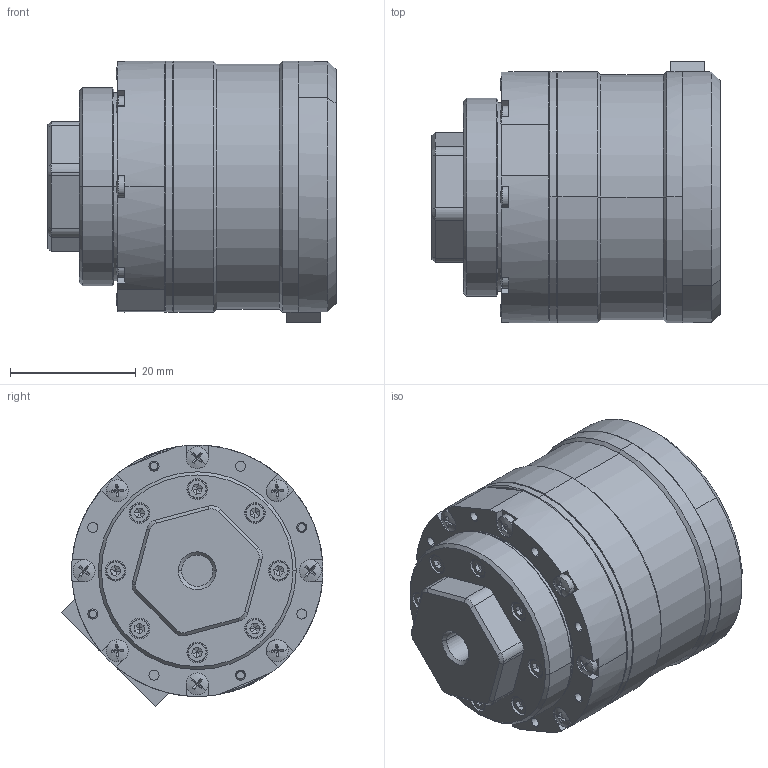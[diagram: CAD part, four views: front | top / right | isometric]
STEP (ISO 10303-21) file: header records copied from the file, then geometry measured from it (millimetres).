
FILE_DESCRIPTION (( 'STEP AP203' ), '1' );
FILE_NAME ('E20-H08-1B-100.STEP', '2021-10-09T02:42:21', ( 'lenovo' ), ( '' ), 'SwSTEP 2.0', 'SolidWorks 2016', '' );
FILE_SCHEMA (( 'CONFIG_CONTROL_DESIGN' ));
Length unit declared in the file: millimetre
Products named in the file (24): SHD-08-QDEL20_002; SHD-08-詩謫; SHD-08-交叉轴承外圈; SHD-11-QDNE30_005; 32.0x1.5O型圈_預設; SHD-08-交叉轴承内圈; GB／T70．1-2000内六角圆柱头螺钉M2．5×6; SHD-08-熬厒ん軞傖_蕼偞; SHD-08-蝠脫粣創黑芛; GB／T819．1-2000十字槽沉头螺钉M2．5×12; E20-H08_001; M1.6-蹟隊_蕼偞; QDEL20; E20-H08-1B_001; B-2.0-幗紩_蕼偞; GB／T70．1-2000内六角圆柱头螺钉M1．6×8; EL20萇繚啣; 2.0-幗紩_蕼偞; GB823-88十字槽小盘头螺钉M2×12; 14郋俔渀釱; SHD-08蝠脫粣創_蕼偞; E20-H08-1B-100; EL20萇繚啣郪璃; SHD-08-柔轮SLDPRT_預設
Assembly tree (91 placements, depth 4):
  E20-H08-1B-100
    SHD-08-熬厒ん軞傖_蕼偞
      SHD-08蝠脫粣創_蕼偞
        SHD-08-交叉轴承外圈
        SHD-08-交叉轴承内圈
        SHD-08-蝠脫粣創黑芛
        M1.6-蹟隊_蕼偞
        B-2.0-幗紩_蕼偞  x23
        2.0-幗紩_蕼偞  x23
      SHD-08-柔轮SLDPRT_預設
      SHD-08-詩謫
      M1.6-蹟隊_蕼偞  x8
      32.0x1.5O型圈_預設
    E20-H08_001
    QDEL20
      E20-H08-1B_001
      EL20萇繚啣郪璃
        EL20萇繚啣
        14郋俔渀釱
      SHD-08-QDEL20_002
      SHD-11-QDNE30_005
      GB／T70．1-2000内六角圆柱头螺钉M2．5×6  x2
      GB／T819．1-2000十字槽沉头螺钉M2．5×12  x2
    GB／T70．1-2000内六角圆柱头螺钉M1．6×8  x8
    GB823-88十字槽小盘头螺钉M2×12  x8
Bounding box: 45.85 x 41.67 x 41.67 mm (x, y, z)
Volume: 25871.4 mm3; surface area: 30885.5 mm2
Topology: 87 solids, 87 shells, 2093 faces, 4634 edges, 2765 vertices
Faces by surface type: plane 938, cylinder 593, torus 292, cone 254, sphere 16
Entity records: 36683 total; most frequent: DIRECTION 5973, CARTESIAN_POINT 5734, ORIENTED_EDGE 5176, EDGE_CURVE 2588, AXIS2_PLACEMENT_3D 2241, VERTEX_POINT 1602, LINE 1491, VECTOR 1491
